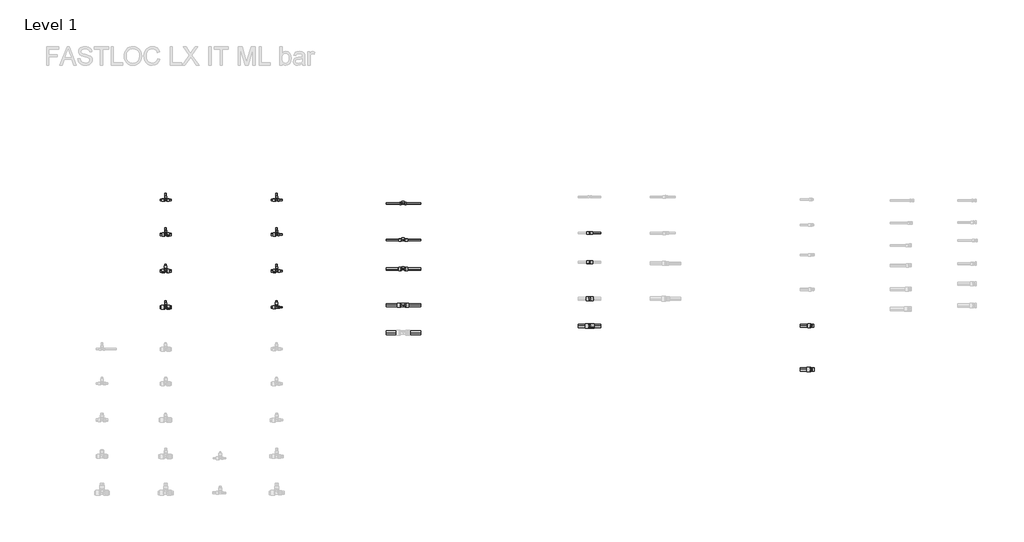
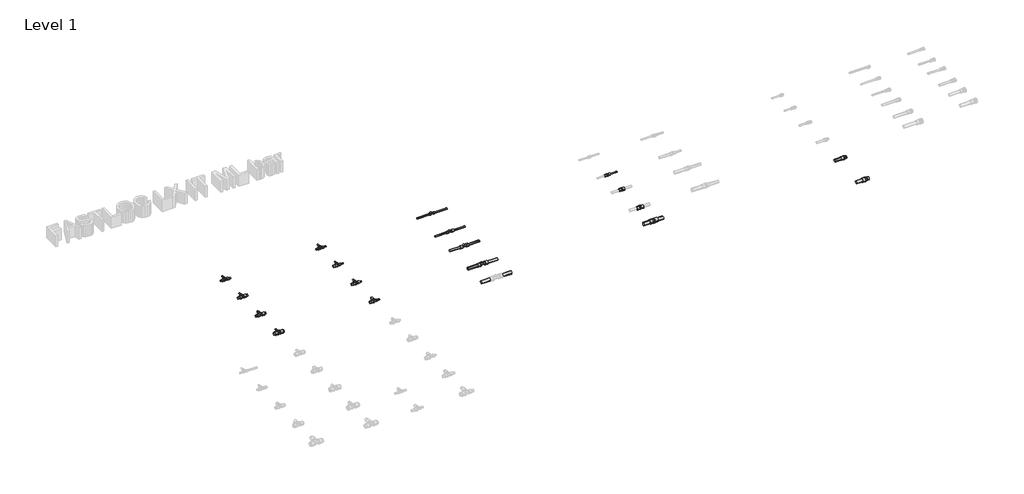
# One storey, part 20 of 78: 39 pipe segments, 18 pipe fittings.
"""IFC4 building model written with IfcOpenShell, lengths in millimetres."""

from ifc_helpers import new_model, si_unit, point, frame, frame_2d, origin, place, context, project, spatial, circle_curve, trimmed, segment, composite_curve, outline, extrude, transform, mapped, element, save
from components import pipe_fitting_91740978, pipe_fitting_5ae7c970, pipe_fitting_e97a97d3, pipe_fitting_d9a56b63, pipe_fitting_a094db19, pipe_fitting_8fb58d5f, pipe_fitting_db17a53a, pipe_fitting_3bea6388, pipe_fitting_e638986c, pipe_fitting_d92d4423, pipe_fitting_47d0521d, pipe_fitting_29c4d4eb, pipe_fitting_1d22680d, pipe_fitting_5e3c5755, pipe_fitting_f5731c1c, pipe_fitting_607ccf76, pipe_fitting_b01d00d0, pipe_fitting_e8fea69e

model = new_model("IFC4")

# Units and contexts
model_context = context("Model", 3, world=origin())
ifc_project = project(units=[si_unit("LENGTHUNIT", "METRE", prefix="MILLI")], contexts=[model_context])

# Site, building, storey
site = spatial("IfcSite", under=ifc_project)
building = spatial("IfcBuilding", under=site)
storey = spatial("IfcBuildingStorey", under=building, Name="Level 1", Elevation=0.0)

# Pipe fittings
placement = place(None, origin())
pipe_fitting_shape = pipe_fitting_91740978(model_context)
element("IfcPipeFitting", 1, ObjectType="FASTLOC_T-piece internal thread LX : FSL T thread LX IT", at=placement, inside=storey, context=model_context, shape_type="MappedRepresentation", body=[
    mapped(pipe_fitting_shape, transform((27436.609585, -19899.8272875, 0.0), x_axis=(1.0, 0.0, 0.0), y_axis=(0.0, 1.0, 0.0), z_axis=(0.0, 0.0, 1.0))),
])
pipe_fitting_2_shape = pipe_fitting_5ae7c970(model_context)
element("IfcPipeFitting", 2, ObjectType="FASTLOC_T-piece_LX : FSL T-Piece LX IT", at=placement, inside=storey, context=model_context, shape_type="MappedRepresentation", body=[
    mapped(pipe_fitting_2_shape, transform((24826.7498072, -18740.2405791, 0.0), x_axis=(1.0, 0.0, 0.0), y_axis=(0.0, 1.0, 0.0), z_axis=(0.0, 0.0, 1.0))),
])
pipe_fitting_3_shape = pipe_fitting_e97a97d3(model_context)
element("IfcPipeFitting", 3, ObjectType="FASTLOC_T-piece_LX : FSL T-Piece LX IT", at=placement, inside=storey, context=model_context, shape_type="MappedRepresentation", body=[
    mapped(pipe_fitting_3_shape, transform((24826.7498072, -19120.2405791, 0.0), x_axis=(1.0, 0.0, 0.0), y_axis=(0.0, 1.0, 0.0), z_axis=(0.0, 0.0, 1.0))),
])
pipe_fitting_4_shape = pipe_fitting_d9a56b63(model_context)
element("IfcPipeFitting", 4, ObjectType="FASTLOC_T-piece_LX : FSL T-Piece LX IT", at=placement, inside=storey, context=model_context, shape_type="MappedRepresentation", body=[
    mapped(pipe_fitting_4_shape, transform((24826.7498072, -19520.2405791, 0.0), x_axis=(1.0, 0.0, 0.0), y_axis=(0.0, 1.0, 0.0), z_axis=(0.0, 0.0, 1.0))),
])
pipe_fitting_5_shape = pipe_fitting_a094db19(model_context)
element("IfcPipeFitting", 5, ObjectType="FASTLOC_T-piece_LX : FSL T-Piece LX IT", at=placement, inside=storey, context=model_context, shape_type="MappedRepresentation", body=[
    mapped(pipe_fitting_5_shape, transform((24826.7498072, -19920.2405791, 0.0), x_axis=(1.0, 0.0, 0.0), y_axis=(0.0, 1.0, 0.0), z_axis=(0.0, 0.0, 1.0))),
])
pipe_fitting_6_shape = pipe_fitting_8fb58d5f(model_context)
element("IfcPipeFitting", 6, ObjectType="FASTLOC_T-piece_LX : FSL T-Piece LX IT", at=placement, inside=storey, context=model_context, shape_type="MappedRepresentation", body=[
    mapped(pipe_fitting_6_shape, transform((26046.7498072, -18740.2405791, 0.0), x_axis=(1.0, 0.0, 0.0), y_axis=(0.0, 1.0, 0.0), z_axis=(0.0, 0.0, 1.0))),
])
pipe_fitting_7_shape = pipe_fitting_db17a53a(model_context)
element("IfcPipeFitting", 7, ObjectType="FASTLOC_T-piece_LX : FSL T-Piece LX IT", at=placement, inside=storey, context=model_context, shape_type="MappedRepresentation", body=[
    mapped(pipe_fitting_7_shape, transform((26046.7498072, -19120.2405791, 0.0), x_axis=(1.0, 0.0, 0.0), y_axis=(0.0, 1.0, 0.0), z_axis=(0.0, 0.0, 1.0))),
])
pipe_fitting_8_shape = pipe_fitting_3bea6388(model_context)
element("IfcPipeFitting", 8, ObjectType="FASTLOC_T-piece_LX : FSL T-Piece LX IT", at=placement, inside=storey, context=model_context, shape_type="MappedRepresentation", body=[
    mapped(pipe_fitting_8_shape, transform((26046.7498072, -19520.2405791, 0.0), x_axis=(1.0, 0.0, 0.0), y_axis=(0.0, 1.0, 0.0), z_axis=(0.0, 0.0, 1.0))),
])
pipe_fitting_9_shape = pipe_fitting_e638986c(model_context)
element("IfcPipeFitting", 9, ObjectType="FASTLOC_T-piece_LX : FSL T-Piece LX IT", at=placement, inside=storey, context=model_context, shape_type="MappedRepresentation", body=[
    mapped(pipe_fitting_9_shape, transform((26046.7498072, -19920.2405791, 0.0), x_axis=(1.0, 0.0, 0.0), y_axis=(0.0, 1.0, 0.0), z_axis=(0.0, 0.0, 1.0))),
])
pipe_fitting_10_shape = pipe_fitting_d92d4423(model_context)
element("IfcPipeFitting", 10, ObjectType="FASTLOC_T-piece internal thread LX : FSL T thread LX IT", at=placement, inside=storey, context=model_context, shape_type="MappedRepresentation", body=[
    mapped(pipe_fitting_10_shape, transform((27436.609585, -18779.8272875, 0.0), x_axis=(1.0, 0.0, 0.0), y_axis=(0.0, 1.0, 0.0), z_axis=(0.0, 0.0, 1.0))),
])
pipe_fitting_11_shape = pipe_fitting_47d0521d(model_context)
element("IfcPipeFitting", 11, ObjectType="FASTLOC_T-piece internal thread LX : FSL T thread LX IT", at=placement, inside=storey, context=model_context, shape_type="MappedRepresentation", body=[
    mapped(pipe_fitting_11_shape, transform((27436.609585, -19179.8272875, 0.0), x_axis=(1.0, 0.0, 0.0), y_axis=(0.0, 1.0, 0.0), z_axis=(0.0, 0.0, 1.0))),
])
pipe_fitting_12_shape = pipe_fitting_29c4d4eb(model_context)
element("IfcPipeFitting", 12, ObjectType="FASTLOC_T-piece internal thread LX : FSL T thread LX IT", at=placement, inside=storey, context=model_context, shape_type="MappedRepresentation", body=[
    mapped(pipe_fitting_12_shape, transform((27436.609585, -19499.8272875, 0.0), x_axis=(1.0, 0.0, 0.0), y_axis=(0.0, 1.0, 0.0), z_axis=(0.0, 0.0, 1.0))),
])
pipe_fitting_13_shape = pipe_fitting_1d22680d(model_context)
element("IfcPipeFitting", 13, ObjectType="FASTLOC_Coupling equal LX : FSL C LX IT", at=placement, inside=storey, context=model_context, shape_type="MappedRepresentation", body=[
    mapped(pipe_fitting_13_shape, transform((29488.3790161, -19105.8821283, 0.0), x_axis=(1.0, 0.0, 0.0), y_axis=(0.0, 1.0, 0.0), z_axis=(0.0, 0.0, 1.0))),
])
pipe_fitting_14_shape = pipe_fitting_5e3c5755(model_context)
element("IfcPipeFitting", 14, ObjectType="FASTLOC_Coupling equal LX : FSL C LX IT", at=placement, inside=storey, context=model_context, shape_type="MappedRepresentation", body=[
    mapped(pipe_fitting_14_shape, transform((29488.3790161, -19425.8821283, 0.0), x_axis=(1.0, 0.0, 0.0), y_axis=(0.0, 1.0, 0.0), z_axis=(0.0, 0.0, 1.0))),
])
pipe_fitting_15_shape = pipe_fitting_f5731c1c(model_context)
element("IfcPipeFitting", 15, ObjectType="FASTLOC_Coupling equal LX : FSL C LX IT", at=placement, inside=storey, context=model_context, shape_type="MappedRepresentation", body=[
    mapped(pipe_fitting_15_shape, transform((29488.3790161, -19825.8821283, 0.0), x_axis=(1.0, 0.0, 0.0), y_axis=(0.0, 1.0, 0.0), z_axis=(0.0, 0.0, 1.0))),
])
pipe_fitting_16_shape = pipe_fitting_607ccf76(model_context)
element("IfcPipeFitting", 16, ObjectType="FASTLOC_Coupling equal LX : FSL C LX IT", at=placement, inside=storey, context=model_context, shape_type="MappedRepresentation", body=[
    mapped(pipe_fitting_16_shape, transform((29488.3790161, -20125.8821283, 0.0), x_axis=(1.0, 0.0, 0.0), y_axis=(0.0, 1.0, 0.0), z_axis=(0.0, 0.0, 1.0))),
])
pipe_fitting_17_shape = pipe_fitting_b01d00d0(model_context)
element("IfcPipeFitting", 17, ObjectType="FASTLOC_Adapter_LX, with external thread : FSL A C external IT", at=placement, inside=storey, context=model_context, shape_type="MappedRepresentation", body=[
    mapped(pipe_fitting_17_shape, transform((31926.8953131, -20124.2068389, 0.0), x_axis=(1.0, 0.0, 0.0), y_axis=(0.0, 1.0, 0.0), z_axis=(0.0, 0.0, 1.0))),
])
pipe_fitting_18_shape = pipe_fitting_e8fea69e(model_context)
element("IfcPipeFitting", 18, ObjectType="FASTLOC_Adapter_LX, with external thread : FSL A C external IT", at=placement, inside=storey, context=model_context, shape_type="MappedRepresentation", body=[
    mapped(pipe_fitting_18_shape, transform((31926.8953131, -20604.2068389, 0.0), x_axis=(1.0, 0.0, 0.0), y_axis=(0.0, 1.0, 0.0), z_axis=(0.0, 0.0, 1.0))),
])

# Pipe segments
element("IfcPipeSegment", 19, ObjectType="FASTLOC LX ML IT bar", at=placement, inside=storey, context=model_context, shape_type="SweptSolid", body=[
    extrude(outline(composite_curve([segment(trimmed(circle_curve(frame_2d((-18740.2405791, 0.0)), 8.0), [point((-18748.2405791, 0.0))], [point((-18740.2405791, 8.0))], False, "CARTESIAN"), True, "CONTINUOUS"), segment(trimmed(circle_curve(frame_2d((-18740.2405791, 0.0)), 8.0), [point((-18740.2405791, 8.0))], [point((-18732.2405791, 0.0))], False, "CARTESIAN"), True, "CONTINUOUS"), segment(trimmed(circle_curve(frame_2d((-18740.2405791, 0.0)), 8.0), [point((-18732.2405791, 0.0))], [point((-18740.2405791, -8.0))], False, "CARTESIAN"), True, "CONTINUOUS"), segment(trimmed(circle_curve(frame_2d((-18740.2405791, 0.0)), 8.0), [point((-18740.2405791, -8.0))], [point((-18748.2405791, 0.0))], False, "CARTESIAN"), True, "CONTINUOUS")], self_intersect=False)), frame((24842.0498072, 0.0, 0.0), z_axis=(1.0, 0.0, 0.0), x_axis=(0.0, 1.0, 0.0)), (0.0, 0.0, 1.0), 46.7),
])
element("IfcPipeSegment", 20, ObjectType="FASTLOC LX ML IT bar", at=placement, inside=storey, context=model_context, shape_type="SweptSolid", body=[
    extrude(outline(composite_curve([segment(trimmed(circle_curve(frame_2d((-18740.2405791, 0.0)), 8.0), [point((-18732.2405791, 0.0))], [point((-18740.2405791, -8.0))], False, "CARTESIAN"), True, "CONTINUOUS"), segment(trimmed(circle_curve(frame_2d((-18740.2405791, 0.0)), 8.0), [point((-18740.2405791, -8.0))], [point((-18748.2405791, 0.0))], False, "CARTESIAN"), True, "CONTINUOUS"), segment(trimmed(circle_curve(frame_2d((-18740.2405791, 0.0)), 8.0), [point((-18748.2405791, 0.0))], [point((-18740.2405791, 8.0))], False, "CARTESIAN"), True, "CONTINUOUS"), segment(trimmed(circle_curve(frame_2d((-18740.2405791, 0.0)), 8.0), [point((-18740.2405791, 8.0))], [point((-18732.2405791, 0.0))], False, "CARTESIAN"), True, "CONTINUOUS")], self_intersect=False)), frame((24764.7498072, 0.0, 0.0), z_axis=(1.0, 0.0, 0.0), x_axis=(0.0, 1.0, 0.0)), (0.0, 0.0, 1.0), 46.7),
])
element("IfcPipeSegment", 21, ObjectType="FASTLOC LX ML IT bar", at=placement, inside=storey, context=model_context, shape_type="SweptSolid", body=[
    extrude(outline(composite_curve([segment(trimmed(circle_curve(frame_2d((0.0, 24826.7498072)), 8.0), [point((0.0, 24834.7498072))], [point((8.0, 24826.7498072))], False, "CARTESIAN"), True, "CONTINUOUS"), segment(trimmed(circle_curve(frame_2d((0.0, 24826.7498072)), 8.0), [point((8.0, 24826.7498072))], [point((0.0, 24818.7498072))], False, "CARTESIAN"), True, "CONTINUOUS"), segment(trimmed(circle_curve(frame_2d((0.0, 24826.7498072)), 8.0), [point((0.0, 24818.7498072))], [point((-8.0, 24826.7498072))], False, "CARTESIAN"), True, "CONTINUOUS"), segment(trimmed(circle_curve(frame_2d((0.0, 24826.7498072)), 8.0), [point((-8.0, 24826.7498072))], [point((0.0, 24834.7498072))], False, "CARTESIAN"), True, "CONTINUOUS")], self_intersect=False)), frame((0.0, -18713.9405791, 0.0), z_axis=(0.0, 1.0, 0.0), x_axis=(0.0, 0.0, 1.0)), (0.0, 0.0, 1.0), 46.0),
])
element("IfcPipeSegment", 22, ObjectType="FASTLOC LX ML IT bar", at=placement, inside=storey, context=model_context, shape_type="SweptSolid", body=[
    extrude(outline(composite_curve([segment(trimmed(circle_curve(frame_2d((-19120.2405791, 0.0)), 12.5), [point((-19132.7405791, 0.0))], [point((-19120.2405791, 12.5))], False, "CARTESIAN"), True, "CONTINUOUS"), segment(trimmed(circle_curve(frame_2d((-19120.2405791, 0.0)), 12.5), [point((-19120.2405791, 12.5))], [point((-19107.7405791, 0.0))], False, "CARTESIAN"), True, "CONTINUOUS"), segment(trimmed(circle_curve(frame_2d((-19120.2405791, 0.0)), 12.5), [point((-19107.7405791, 0.0))], [point((-19120.2405791, -12.5))], False, "CARTESIAN"), True, "CONTINUOUS"), segment(trimmed(circle_curve(frame_2d((-19120.2405791, 0.0)), 12.5), [point((-19120.2405791, -12.5))], [point((-19132.7405791, 0.0))], False, "CARTESIAN"), True, "CONTINUOUS")], self_intersect=False)), frame((24842.9498072, 0.0, 0.0), z_axis=(1.0, 0.0, 0.0), x_axis=(0.0, 1.0, 0.0)), (0.0, 0.0, 1.0), 45.8),
])
element("IfcPipeSegment", 23, ObjectType="FASTLOC LX ML IT bar", at=placement, inside=storey, context=model_context, shape_type="SweptSolid", body=[
    extrude(outline(composite_curve([segment(trimmed(circle_curve(frame_2d((-19120.2405791, 0.0)), 12.5), [point((-19107.7405791, 0.0))], [point((-19120.2405791, -12.5))], False, "CARTESIAN"), True, "CONTINUOUS"), segment(trimmed(circle_curve(frame_2d((-19120.2405791, 0.0)), 12.5), [point((-19120.2405791, -12.5))], [point((-19132.7405791, 0.0))], False, "CARTESIAN"), True, "CONTINUOUS"), segment(trimmed(circle_curve(frame_2d((-19120.2405791, 0.0)), 12.5), [point((-19132.7405791, 0.0))], [point((-19120.2405791, 12.5))], False, "CARTESIAN"), True, "CONTINUOUS"), segment(trimmed(circle_curve(frame_2d((-19120.2405791, 0.0)), 12.5), [point((-19120.2405791, 12.5))], [point((-19107.7405791, 0.0))], False, "CARTESIAN"), True, "CONTINUOUS")], self_intersect=False)), frame((24764.7498072, 0.0, 0.0), z_axis=(1.0, 0.0, 0.0), x_axis=(0.0, 1.0, 0.0)), (0.0, 0.0, 1.0), 45.8),
])
element("IfcPipeSegment", 24, ObjectType="FASTLOC LX ML IT bar", at=placement, inside=storey, context=model_context, shape_type="SweptSolid", body=[
    extrude(outline(composite_curve([segment(trimmed(circle_curve(frame_2d((0.0, 24826.7498072)), 8.0), [point((0.0, 24834.7498072))], [point((8.0, 24826.7498072))], False, "CARTESIAN"), True, "CONTINUOUS"), segment(trimmed(circle_curve(frame_2d((0.0, 24826.7498072)), 8.0), [point((8.0, 24826.7498072))], [point((0.0, 24818.7498072))], False, "CARTESIAN"), True, "CONTINUOUS"), segment(trimmed(circle_curve(frame_2d((0.0, 24826.7498072)), 8.0), [point((0.0, 24818.7498072))], [point((-8.0, 24826.7498072))], False, "CARTESIAN"), True, "CONTINUOUS"), segment(trimmed(circle_curve(frame_2d((0.0, 24826.7498072)), 8.0), [point((-8.0, 24826.7498072))], [point((0.0, 24834.7498072))], False, "CARTESIAN"), True, "CONTINUOUS")], self_intersect=False)), frame((0.0, -19091.2405791, 0.0), z_axis=(0.0, 1.0, 0.0), x_axis=(0.0, 0.0, 1.0)), (0.0, 0.0, 1.0), 43.3),
])
element("IfcPipeSegment", 25, ObjectType="FASTLOC LX ML IT bar", at=placement, inside=storey, context=model_context, shape_type="SweptSolid", body=[
    extrude(outline(composite_curve([segment(trimmed(circle_curve(frame_2d((-19520.2405791, 0.0)), 12.5), [point((-19532.7405791, 0.0))], [point((-19520.2405791, 12.5))], False, "CARTESIAN"), True, "CONTINUOUS"), segment(trimmed(circle_curve(frame_2d((-19520.2405791, 0.0)), 12.5), [point((-19520.2405791, 12.5))], [point((-19507.7405791, 0.0))], False, "CARTESIAN"), True, "CONTINUOUS"), segment(trimmed(circle_curve(frame_2d((-19520.2405791, 0.0)), 12.5), [point((-19507.7405791, 0.0))], [point((-19520.2405791, -12.5))], False, "CARTESIAN"), True, "CONTINUOUS"), segment(trimmed(circle_curve(frame_2d((-19520.2405791, 0.0)), 12.5), [point((-19520.2405791, -12.5))], [point((-19532.7405791, 0.0))], False, "CARTESIAN"), True, "CONTINUOUS")], self_intersect=False)), frame((24844.8498072, 0.0, 0.0), z_axis=(1.0, 0.0, 0.0), x_axis=(0.0, 1.0, 0.0)), (0.0, 0.0, 1.0), 43.9),
])
element("IfcPipeSegment", 26, ObjectType="FASTLOC LX ML IT bar", at=placement, inside=storey, context=model_context, shape_type="SweptSolid", body=[
    extrude(outline(composite_curve([segment(trimmed(circle_curve(frame_2d((-19520.2405791, 0.0)), 12.5), [point((-19507.7405791, 0.0))], [point((-19520.2405791, -12.5))], False, "CARTESIAN"), True, "CONTINUOUS"), segment(trimmed(circle_curve(frame_2d((-19520.2405791, 0.0)), 12.5), [point((-19520.2405791, -12.5))], [point((-19532.7405791, 0.0))], False, "CARTESIAN"), True, "CONTINUOUS"), segment(trimmed(circle_curve(frame_2d((-19520.2405791, 0.0)), 12.5), [point((-19532.7405791, 0.0))], [point((-19520.2405791, 12.5))], False, "CARTESIAN"), True, "CONTINUOUS"), segment(trimmed(circle_curve(frame_2d((-19520.2405791, 0.0)), 12.5), [point((-19520.2405791, 12.5))], [point((-19507.7405791, 0.0))], False, "CARTESIAN"), True, "CONTINUOUS")], self_intersect=False)), frame((24764.7498072, 0.0, 0.0), z_axis=(1.0, 0.0, 0.0), x_axis=(0.0, 1.0, 0.0)), (0.0, 0.0, 1.0), 43.9),
])
element("IfcPipeSegment", 27, ObjectType="FASTLOC LX ML IT bar", at=placement, inside=storey, context=model_context, shape_type="SweptSolid", body=[
    extrude(outline(composite_curve([segment(trimmed(circle_curve(frame_2d((0.0, 24826.7498072)), 8.0), [point((0.0, 24834.7498072))], [point((8.0, 24826.7498072))], False, "CARTESIAN"), True, "CONTINUOUS"), segment(trimmed(circle_curve(frame_2d((0.0, 24826.7498072)), 8.0), [point((8.0, 24826.7498072))], [point((0.0, 24818.7498072))], False, "CARTESIAN"), True, "CONTINUOUS"), segment(trimmed(circle_curve(frame_2d((0.0, 24826.7498072)), 8.0), [point((0.0, 24818.7498072))], [point((-8.0, 24826.7498072))], False, "CARTESIAN"), True, "CONTINUOUS"), segment(trimmed(circle_curve(frame_2d((0.0, 24826.7498072)), 8.0), [point((-8.0, 24826.7498072))], [point((0.0, 24834.7498072))], False, "CARTESIAN"), True, "CONTINUOUS")], self_intersect=False)), frame((0.0, -19491.0405791, 0.0), z_axis=(0.0, 1.0, 0.0), x_axis=(0.0, 0.0, 1.0)), (0.0, 0.0, 1.0), 43.1),
])
element("IfcPipeSegment", 28, ObjectType="FASTLOC LX ML IT bar", at=placement, inside=storey, context=model_context, shape_type="SweptSolid", body=[
    extrude(outline(composite_curve([segment(trimmed(circle_curve(frame_2d((-19920.2405791, 0.0)), 16.0), [point((-19936.2405791, 0.0))], [point((-19920.2405791, 16.0))], False, "CARTESIAN"), True, "CONTINUOUS"), segment(trimmed(circle_curve(frame_2d((-19920.2405791, 0.0)), 16.0), [point((-19920.2405791, 16.0))], [point((-19904.2405791, 0.0))], False, "CARTESIAN"), True, "CONTINUOUS"), segment(trimmed(circle_curve(frame_2d((-19920.2405791, 0.0)), 16.0), [point((-19904.2405791, 0.0))], [point((-19920.2405791, -16.0))], False, "CARTESIAN"), True, "CONTINUOUS"), segment(trimmed(circle_curve(frame_2d((-19920.2405791, 0.0)), 16.0), [point((-19920.2405791, -16.0))], [point((-19936.2405791, 0.0))], False, "CARTESIAN"), True, "CONTINUOUS")], self_intersect=False)), frame((24845.0498072, 0.0, 0.0), z_axis=(1.0, 0.0, 0.0), x_axis=(0.0, 1.0, 0.0)), (0.0, 0.0, 1.0), 43.7),
])
element("IfcPipeSegment", 29, ObjectType="FASTLOC LX ML IT bar", at=placement, inside=storey, context=model_context, shape_type="SweptSolid", body=[
    extrude(outline(composite_curve([segment(trimmed(circle_curve(frame_2d((-19920.2405791, 0.0)), 16.0), [point((-19904.2405791, 0.0))], [point((-19920.2405791, -16.0))], False, "CARTESIAN"), True, "CONTINUOUS"), segment(trimmed(circle_curve(frame_2d((-19920.2405791, 0.0)), 16.0), [point((-19920.2405791, -16.0))], [point((-19936.2405791, 0.0))], False, "CARTESIAN"), True, "CONTINUOUS"), segment(trimmed(circle_curve(frame_2d((-19920.2405791, 0.0)), 16.0), [point((-19936.2405791, 0.0))], [point((-19920.2405791, 16.0))], False, "CARTESIAN"), True, "CONTINUOUS"), segment(trimmed(circle_curve(frame_2d((-19920.2405791, 0.0)), 16.0), [point((-19920.2405791, 16.0))], [point((-19904.2405791, 0.0))], False, "CARTESIAN"), True, "CONTINUOUS")], self_intersect=False)), frame((24764.7498072, 0.0, 0.0), z_axis=(1.0, 0.0, 0.0), x_axis=(0.0, 1.0, 0.0)), (0.0, 0.0, 1.0), 43.7),
])
element("IfcPipeSegment", 30, ObjectType="FASTLOC LX ML IT bar", at=placement, inside=storey, context=model_context, shape_type="SweptSolid", body=[
    extrude(outline(composite_curve([segment(trimmed(circle_curve(frame_2d((0.0, 24826.7498072)), 8.0), [point((0.0, 24834.7498072))], [point((8.0, 24826.7498072))], False, "CARTESIAN"), True, "CONTINUOUS"), segment(trimmed(circle_curve(frame_2d((0.0, 24826.7498072)), 8.0), [point((8.0, 24826.7498072))], [point((0.0, 24818.7498072))], False, "CARTESIAN"), True, "CONTINUOUS"), segment(trimmed(circle_curve(frame_2d((0.0, 24826.7498072)), 8.0), [point((0.0, 24818.7498072))], [point((-8.0, 24826.7498072))], False, "CARTESIAN"), True, "CONTINUOUS"), segment(trimmed(circle_curve(frame_2d((0.0, 24826.7498072)), 8.0), [point((-8.0, 24826.7498072))], [point((0.0, 24834.7498072))], False, "CARTESIAN"), True, "CONTINUOUS")], self_intersect=False)), frame((0.0, -19886.3405791, 0.0), z_axis=(0.0, 1.0, 0.0), x_axis=(0.0, 0.0, 1.0)), (0.0, 0.0, 1.0), 38.4),
])
element("IfcPipeSegment", 31, ObjectType="FASTLOC LX ML IT bar", at=placement, inside=storey, context=model_context, shape_type="SweptSolid", body=[
    extrude(outline(composite_curve([segment(trimmed(circle_curve(frame_2d((-18740.2405791, 0.0)), 8.0), [point((-18748.2405791, 0.0))], [point((-18740.2405791, 8.0))], False, "CARTESIAN"), True, "CONTINUOUS"), segment(trimmed(circle_curve(frame_2d((-18740.2405791, 0.0)), 8.0), [point((-18740.2405791, 8.0))], [point((-18732.2405791, 0.0))], False, "CARTESIAN"), True, "CONTINUOUS"), segment(trimmed(circle_curve(frame_2d((-18740.2405791, 0.0)), 8.0), [point((-18732.2405791, 0.0))], [point((-18740.2405791, -8.0))], False, "CARTESIAN"), True, "CONTINUOUS"), segment(trimmed(circle_curve(frame_2d((-18740.2405791, 0.0)), 8.0), [point((-18740.2405791, -8.0))], [point((-18748.2405791, 0.0))], False, "CARTESIAN"), True, "CONTINUOUS")], self_intersect=False)), frame((26061.8498072, 0.0, 0.0), z_axis=(1.0, 0.0, 0.0), x_axis=(0.0, 1.0, 0.0)), (0.0, 0.0, 1.0), 46.9),
])
element("IfcPipeSegment", 32, ObjectType="FASTLOC LX ML IT bar", at=placement, inside=storey, context=model_context, shape_type="SweptSolid", body=[
    extrude(outline(composite_curve([segment(trimmed(circle_curve(frame_2d((-18740.2405791, 0.0)), 8.0), [point((-18732.2405791, 0.0))], [point((-18740.2405791, -8.0))], False, "CARTESIAN"), True, "CONTINUOUS"), segment(trimmed(circle_curve(frame_2d((-18740.2405791, 0.0)), 8.0), [point((-18740.2405791, -8.0))], [point((-18748.2405791, 0.0))], False, "CARTESIAN"), True, "CONTINUOUS"), segment(trimmed(circle_curve(frame_2d((-18740.2405791, 0.0)), 8.0), [point((-18748.2405791, 0.0))], [point((-18740.2405791, 8.0))], False, "CARTESIAN"), True, "CONTINUOUS"), segment(trimmed(circle_curve(frame_2d((-18740.2405791, 0.0)), 8.0), [point((-18740.2405791, 8.0))], [point((-18732.2405791, 0.0))], False, "CARTESIAN"), True, "CONTINUOUS")], self_intersect=False)), frame((25984.7498072, 0.0, 0.0), z_axis=(1.0, 0.0, 0.0), x_axis=(0.0, 1.0, 0.0)), (0.0, 0.0, 1.0), 46.5),
])
element("IfcPipeSegment", 33, ObjectType="FASTLOC LX ML IT bar", at=placement, inside=storey, context=model_context, shape_type="SweptSolid", body=[
    extrude(outline(composite_curve([segment(trimmed(circle_curve(frame_2d((0.0, 26046.7498072)), 8.0), [point((0.0, 26054.7498072))], [point((8.0, 26046.7498072))], False, "CARTESIAN"), True, "CONTINUOUS"), segment(trimmed(circle_curve(frame_2d((0.0, 26046.7498072)), 8.0), [point((8.0, 26046.7498072))], [point((0.0, 26038.7498072))], False, "CARTESIAN"), True, "CONTINUOUS"), segment(trimmed(circle_curve(frame_2d((0.0, 26046.7498072)), 8.0), [point((0.0, 26038.7498072))], [point((-8.0, 26046.7498072))], False, "CARTESIAN"), True, "CONTINUOUS"), segment(trimmed(circle_curve(frame_2d((0.0, 26046.7498072)), 8.0), [point((-8.0, 26046.7498072))], [point((0.0, 26054.7498072))], False, "CARTESIAN"), True, "CONTINUOUS")], self_intersect=False)), frame((0.0, -18713.8405791, 0.0), z_axis=(0.0, 1.0, 0.0), x_axis=(0.0, 0.0, 1.0)), (0.0, 0.0, 1.0), 45.9),
])
element("IfcPipeSegment", 34, ObjectType="FASTLOC LX ML IT bar", at=placement, inside=storey, context=model_context, shape_type="SweptSolid", body=[
    extrude(outline(composite_curve([segment(trimmed(circle_curve(frame_2d((-19120.2405791, 0.0)), 8.0), [point((-19128.2405791, 0.0))], [point((-19120.2405791, 8.0))], False, "CARTESIAN"), True, "CONTINUOUS"), segment(trimmed(circle_curve(frame_2d((-19120.2405791, 0.0)), 8.0), [point((-19120.2405791, 8.0))], [point((-19112.2405791, 0.0))], False, "CARTESIAN"), True, "CONTINUOUS"), segment(trimmed(circle_curve(frame_2d((-19120.2405791, 0.0)), 8.0), [point((-19112.2405791, 0.0))], [point((-19120.2405791, -8.0))], False, "CARTESIAN"), True, "CONTINUOUS"), segment(trimmed(circle_curve(frame_2d((-19120.2405791, 0.0)), 8.0), [point((-19120.2405791, -8.0))], [point((-19128.2405791, 0.0))], False, "CARTESIAN"), True, "CONTINUOUS")], self_intersect=False)), frame((26061.8498072, 0.0, 0.0), z_axis=(1.0, 0.0, 0.0), x_axis=(0.0, 1.0, 0.0)), (0.0, 0.0, 1.0), 46.9),
])
element("IfcPipeSegment", 35, ObjectType="FASTLOC LX ML IT bar", at=placement, inside=storey, context=model_context, shape_type="SweptSolid", body=[
    extrude(outline(composite_curve([segment(trimmed(circle_curve(frame_2d((-19120.2405791, 0.0)), 12.5), [point((-19107.7405791, 0.0))], [point((-19120.2405791, -12.5))], False, "CARTESIAN"), True, "CONTINUOUS"), segment(trimmed(circle_curve(frame_2d((-19120.2405791, 0.0)), 12.5), [point((-19120.2405791, -12.5))], [point((-19132.7405791, 0.0))], False, "CARTESIAN"), True, "CONTINUOUS"), segment(trimmed(circle_curve(frame_2d((-19120.2405791, 0.0)), 12.5), [point((-19132.7405791, 0.0))], [point((-19120.2405791, 12.5))], False, "CARTESIAN"), True, "CONTINUOUS"), segment(trimmed(circle_curve(frame_2d((-19120.2405791, 0.0)), 12.5), [point((-19120.2405791, 12.5))], [point((-19107.7405791, 0.0))], False, "CARTESIAN"), True, "CONTINUOUS")], self_intersect=False)), frame((25984.7498072, 0.0, 0.0), z_axis=(1.0, 0.0, 0.0), x_axis=(0.0, 1.0, 0.0)), (0.0, 0.0, 1.0), 45.6),
])
element("IfcPipeSegment", 36, ObjectType="FASTLOC LX ML IT bar", at=placement, inside=storey, context=model_context, shape_type="SweptSolid", body=[
    extrude(outline(composite_curve([segment(trimmed(circle_curve(frame_2d((0.0, 26046.7498072)), 8.0), [point((0.0, 26054.7498072))], [point((8.0, 26046.7498072))], False, "CARTESIAN"), True, "CONTINUOUS"), segment(trimmed(circle_curve(frame_2d((0.0, 26046.7498072)), 8.0), [point((8.0, 26046.7498072))], [point((0.0, 26038.7498072))], False, "CARTESIAN"), True, "CONTINUOUS"), segment(trimmed(circle_curve(frame_2d((0.0, 26046.7498072)), 8.0), [point((0.0, 26038.7498072))], [point((-8.0, 26046.7498072))], False, "CARTESIAN"), True, "CONTINUOUS"), segment(trimmed(circle_curve(frame_2d((0.0, 26046.7498072)), 8.0), [point((-8.0, 26046.7498072))], [point((0.0, 26054.7498072))], False, "CARTESIAN"), True, "CONTINUOUS")], self_intersect=False)), frame((0.0, -19091.1405791, 0.0), z_axis=(0.0, 1.0, 0.0), x_axis=(0.0, 0.0, 1.0)), (0.0, 0.0, 1.0), 43.2),
])
element("IfcPipeSegment", 37, ObjectType="FASTLOC LX ML IT bar", at=placement, inside=storey, context=model_context, shape_type="SweptSolid", body=[
    extrude(outline(composite_curve([segment(trimmed(circle_curve(frame_2d((-19520.2405791, 0.0)), 8.0), [point((-19528.2405791, 0.0))], [point((-19520.2405791, 8.0))], False, "CARTESIAN"), True, "CONTINUOUS"), segment(trimmed(circle_curve(frame_2d((-19520.2405791, 0.0)), 8.0), [point((-19520.2405791, 8.0))], [point((-19512.2405791, 0.0))], False, "CARTESIAN"), True, "CONTINUOUS"), segment(trimmed(circle_curve(frame_2d((-19520.2405791, 0.0)), 8.0), [point((-19512.2405791, 0.0))], [point((-19520.2405791, -8.0))], False, "CARTESIAN"), True, "CONTINUOUS"), segment(trimmed(circle_curve(frame_2d((-19520.2405791, 0.0)), 8.0), [point((-19520.2405791, -8.0))], [point((-19528.2405791, 0.0))], False, "CARTESIAN"), True, "CONTINUOUS")], self_intersect=False)), frame((26062.2498072, 0.0, 0.0), z_axis=(1.0, 0.0, 0.0), x_axis=(0.0, 1.0, 0.0)), (0.0, 0.0, 1.0), 46.5),
])
element("IfcPipeSegment", 38, ObjectType="FASTLOC LX ML IT bar", at=placement, inside=storey, context=model_context, shape_type="SweptSolid", body=[
    extrude(outline(composite_curve([segment(trimmed(circle_curve(frame_2d((-19520.2405791, 0.0)), 12.5), [point((-19507.7405791, 0.0))], [point((-19520.2405791, -12.5))], False, "CARTESIAN"), True, "CONTINUOUS"), segment(trimmed(circle_curve(frame_2d((-19520.2405791, 0.0)), 12.5), [point((-19520.2405791, -12.5))], [point((-19532.7405791, 0.0))], False, "CARTESIAN"), True, "CONTINUOUS"), segment(trimmed(circle_curve(frame_2d((-19520.2405791, 0.0)), 12.5), [point((-19532.7405791, 0.0))], [point((-19520.2405791, 12.5))], False, "CARTESIAN"), True, "CONTINUOUS"), segment(trimmed(circle_curve(frame_2d((-19520.2405791, 0.0)), 12.5), [point((-19520.2405791, 12.5))], [point((-19507.7405791, 0.0))], False, "CARTESIAN"), True, "CONTINUOUS")], self_intersect=False)), frame((25984.7498072, 0.0, 0.0), z_axis=(1.0, 0.0, 0.0), x_axis=(0.0, 1.0, 0.0)), (0.0, 0.0, 1.0), 45.6),
])
element("IfcPipeSegment", 39, ObjectType="FASTLOC LX ML IT bar", at=placement, inside=storey, context=model_context, shape_type="SweptSolid", body=[
    extrude(outline(composite_curve([segment(trimmed(circle_curve(frame_2d((0.0, 26046.7498072)), 8.0), [point((0.0, 26054.7498072))], [point((8.0, 26046.7498072))], False, "CARTESIAN"), True, "CONTINUOUS"), segment(trimmed(circle_curve(frame_2d((0.0, 26046.7498072)), 8.0), [point((8.0, 26046.7498072))], [point((0.0, 26038.7498072))], False, "CARTESIAN"), True, "CONTINUOUS"), segment(trimmed(circle_curve(frame_2d((0.0, 26046.7498072)), 8.0), [point((0.0, 26038.7498072))], [point((-8.0, 26046.7498072))], False, "CARTESIAN"), True, "CONTINUOUS"), segment(trimmed(circle_curve(frame_2d((0.0, 26046.7498072)), 8.0), [point((-8.0, 26046.7498072))], [point((0.0, 26054.7498072))], False, "CARTESIAN"), True, "CONTINUOUS")], self_intersect=False)), frame((0.0, -19491.1405791, 0.0), z_axis=(0.0, 1.0, 0.0), x_axis=(0.0, 0.0, 1.0)), (0.0, 0.0, 1.0), 43.2),
])
element("IfcPipeSegment", 40, ObjectType="FASTLOC LX ML IT bar", at=placement, inside=storey, context=model_context, shape_type="SweptSolid", body=[
    extrude(outline(composite_curve([segment(trimmed(circle_curve(frame_2d((-19920.2405791, 0.0)), 8.0), [point((-19928.2405791, 0.0))], [point((-19920.2405791, 8.0))], False, "CARTESIAN"), True, "CONTINUOUS"), segment(trimmed(circle_curve(frame_2d((-19920.2405791, 0.0)), 8.0), [point((-19920.2405791, 8.0))], [point((-19912.2405791, 0.0))], False, "CARTESIAN"), True, "CONTINUOUS"), segment(trimmed(circle_curve(frame_2d((-19920.2405791, 0.0)), 8.0), [point((-19912.2405791, 0.0))], [point((-19920.2405791, -8.0))], False, "CARTESIAN"), True, "CONTINUOUS"), segment(trimmed(circle_curve(frame_2d((-19920.2405791, 0.0)), 8.0), [point((-19920.2405791, -8.0))], [point((-19928.2405791, 0.0))], False, "CARTESIAN"), True, "CONTINUOUS")], self_intersect=False)), frame((26063.7498072, 0.0, 0.0), z_axis=(1.0, 0.0, 0.0), x_axis=(0.0, 1.0, 0.0)), (0.0, 0.0, 1.0), 45.0),
])
element("IfcPipeSegment", 41, ObjectType="FASTLOC LX ML IT bar", at=placement, inside=storey, context=model_context, shape_type="SweptSolid", body=[
    extrude(outline(composite_curve([segment(trimmed(circle_curve(frame_2d((-19920.2405791, 0.0)), 12.5), [point((-19907.7405791, 0.0))], [point((-19920.2405791, -12.5))], False, "CARTESIAN"), True, "CONTINUOUS"), segment(trimmed(circle_curve(frame_2d((-19920.2405791, 0.0)), 12.5), [point((-19920.2405791, -12.5))], [point((-19932.7405791, 0.0))], False, "CARTESIAN"), True, "CONTINUOUS"), segment(trimmed(circle_curve(frame_2d((-19920.2405791, 0.0)), 12.5), [point((-19932.7405791, 0.0))], [point((-19920.2405791, 12.5))], False, "CARTESIAN"), True, "CONTINUOUS"), segment(trimmed(circle_curve(frame_2d((-19920.2405791, 0.0)), 12.5), [point((-19920.2405791, 12.5))], [point((-19907.7405791, 0.0))], False, "CARTESIAN"), True, "CONTINUOUS")], self_intersect=False)), frame((25984.7498072, 0.0, 0.0), z_axis=(1.0, 0.0, 0.0), x_axis=(0.0, 1.0, 0.0)), (0.0, 0.0, 1.0), 43.7),
])
element("IfcPipeSegment", 42, ObjectType="FASTLOC LX ML IT bar", at=placement, inside=storey, context=model_context, shape_type="SweptSolid", body=[
    extrude(outline(composite_curve([segment(trimmed(circle_curve(frame_2d((0.0, 26046.7498072)), 8.0), [point((0.0, 26054.7498072))], [point((8.0, 26046.7498072))], False, "CARTESIAN"), True, "CONTINUOUS"), segment(trimmed(circle_curve(frame_2d((0.0, 26046.7498072)), 8.0), [point((8.0, 26046.7498072))], [point((0.0, 26038.7498072))], False, "CARTESIAN"), True, "CONTINUOUS"), segment(trimmed(circle_curve(frame_2d((0.0, 26046.7498072)), 8.0), [point((0.0, 26038.7498072))], [point((-8.0, 26046.7498072))], False, "CARTESIAN"), True, "CONTINUOUS"), segment(trimmed(circle_curve(frame_2d((0.0, 26046.7498072)), 8.0), [point((-8.0, 26046.7498072))], [point((0.0, 26054.7498072))], False, "CARTESIAN"), True, "CONTINUOUS")], self_intersect=False)), frame((0.0, -19891.0405791, 0.0), z_axis=(0.0, 1.0, 0.0), x_axis=(0.0, 0.0, 1.0)), (0.0, 0.0, 1.0), 43.1),
])
element("IfcPipeSegment", 43, ObjectType="FASTLOC LX ML IT bar", at=placement, inside=storey, context=model_context, shape_type="SweptSolid", body=[
    extrude(outline(composite_curve([segment(trimmed(circle_curve(frame_2d((-18779.8272875, 0.0)), 8.0), [point((-18787.8272875, 0.0))], [point((-18779.8272875, 8.0))], False, "CARTESIAN"), True, "CONTINUOUS"), segment(trimmed(circle_curve(frame_2d((-18779.8272875, 0.0)), 8.0), [point((-18779.8272875, 8.0))], [point((-18771.8272875, 0.0))], False, "CARTESIAN"), True, "CONTINUOUS"), segment(trimmed(circle_curve(frame_2d((-18779.8272875, 0.0)), 8.0), [point((-18771.8272875, 0.0))], [point((-18779.8272875, -8.0))], False, "CARTESIAN"), True, "CONTINUOUS"), segment(trimmed(circle_curve(frame_2d((-18779.8272875, 0.0)), 8.0), [point((-18779.8272875, -8.0))], [point((-18787.8272875, 0.0))], False, "CARTESIAN"), True, "CONTINUOUS")], self_intersect=False)), frame((27458.609585, 0.0, 0.0), z_axis=(1.0, 0.0, 0.0), x_axis=(0.0, 1.0, 0.0)), (0.0, 0.0, 1.0), 170.0),
])
element("IfcPipeSegment", 44, ObjectType="FASTLOC LX ML IT bar", at=placement, inside=storey, context=model_context, shape_type="SweptSolid", body=[
    extrude(outline(composite_curve([segment(trimmed(circle_curve(frame_2d((-18779.8272875, 0.0)), 8.0), [point((-18771.8272875, 0.0))], [point((-18779.8272875, -8.0))], False, "CARTESIAN"), True, "CONTINUOUS"), segment(trimmed(circle_curve(frame_2d((-18779.8272875, 0.0)), 8.0), [point((-18779.8272875, -8.0))], [point((-18787.8272875, 0.0))], False, "CARTESIAN"), True, "CONTINUOUS"), segment(trimmed(circle_curve(frame_2d((-18779.8272875, 0.0)), 8.0), [point((-18787.8272875, 0.0))], [point((-18779.8272875, 8.0))], False, "CARTESIAN"), True, "CONTINUOUS"), segment(trimmed(circle_curve(frame_2d((-18779.8272875, 0.0)), 8.0), [point((-18779.8272875, 8.0))], [point((-18771.8272875, 0.0))], False, "CARTESIAN"), True, "CONTINUOUS")], self_intersect=False)), frame((27249.609585, 0.0, 0.0), z_axis=(1.0, 0.0, 0.0), x_axis=(0.0, 1.0, 0.0)), (0.0, 0.0, 1.0), 165.0),
])
element("IfcPipeSegment", 45, ObjectType="FASTLOC LX ML IT bar", at=placement, inside=storey, context=model_context, shape_type="SweptSolid", body=[
    extrude(outline(composite_curve([segment(trimmed(circle_curve(frame_2d((-19179.8272875, 0.0)), 8.0), [point((-19187.8272875, 0.0))], [point((-19179.8272875, 8.0))], False, "CARTESIAN"), True, "CONTINUOUS"), segment(trimmed(circle_curve(frame_2d((-19179.8272875, 0.0)), 8.0), [point((-19179.8272875, 8.0))], [point((-19171.8272875, 0.0))], False, "CARTESIAN"), True, "CONTINUOUS"), segment(trimmed(circle_curve(frame_2d((-19179.8272875, 0.0)), 8.0), [point((-19171.8272875, 0.0))], [point((-19179.8272875, -8.0))], False, "CARTESIAN"), True, "CONTINUOUS"), segment(trimmed(circle_curve(frame_2d((-19179.8272875, 0.0)), 8.0), [point((-19179.8272875, -8.0))], [point((-19187.8272875, 0.0))], False, "CARTESIAN"), True, "CONTINUOUS")], self_intersect=False)), frame((27459.109585, 0.0, 0.0), z_axis=(1.0, 0.0, 0.0), x_axis=(0.0, 1.0, 0.0)), (0.0, 0.0, 1.0), 169.5),
])
element("IfcPipeSegment", 46, ObjectType="FASTLOC LX ML IT bar", at=placement, inside=storey, context=model_context, shape_type="SweptSolid", body=[
    extrude(outline(composite_curve([segment(trimmed(circle_curve(frame_2d((-19179.8272875, 0.0)), 8.0), [point((-19171.8272875, 0.0))], [point((-19179.8272875, -8.0))], False, "CARTESIAN"), True, "CONTINUOUS"), segment(trimmed(circle_curve(frame_2d((-19179.8272875, 0.0)), 8.0), [point((-19179.8272875, -8.0))], [point((-19187.8272875, 0.0))], False, "CARTESIAN"), True, "CONTINUOUS"), segment(trimmed(circle_curve(frame_2d((-19179.8272875, 0.0)), 8.0), [point((-19187.8272875, 0.0))], [point((-19179.8272875, 8.0))], False, "CARTESIAN"), True, "CONTINUOUS"), segment(trimmed(circle_curve(frame_2d((-19179.8272875, 0.0)), 8.0), [point((-19179.8272875, 8.0))], [point((-19171.8272875, 0.0))], False, "CARTESIAN"), True, "CONTINUOUS")], self_intersect=False)), frame((27249.609585, 0.0, 0.0), z_axis=(1.0, 0.0, 0.0), x_axis=(0.0, 1.0, 0.0)), (0.0, 0.0, 1.0), 164.5),
])
element("IfcPipeSegment", 47, ObjectType="FASTLOC LX ML IT bar", at=placement, inside=storey, context=model_context, shape_type="SweptSolid", body=[
    extrude(outline(composite_curve([segment(trimmed(circle_curve(frame_2d((-19499.8272875, 0.0)), 12.5), [point((-19512.3272875, 0.0))], [point((-19499.8272875, 12.5))], False, "CARTESIAN"), True, "CONTINUOUS"), segment(trimmed(circle_curve(frame_2d((-19499.8272875, 0.0)), 12.5), [point((-19499.8272875, 12.5))], [point((-19487.3272875, 0.0))], False, "CARTESIAN"), True, "CONTINUOUS"), segment(trimmed(circle_curve(frame_2d((-19499.8272875, 0.0)), 12.5), [point((-19487.3272875, 0.0))], [point((-19499.8272875, -12.5))], False, "CARTESIAN"), True, "CONTINUOUS"), segment(trimmed(circle_curve(frame_2d((-19499.8272875, 0.0)), 12.5), [point((-19499.8272875, -12.5))], [point((-19512.3272875, 0.0))], False, "CARTESIAN"), True, "CONTINUOUS")], self_intersect=False)), frame((27463.309585, 0.0, 0.0), z_axis=(1.0, 0.0, 0.0), x_axis=(0.0, 1.0, 0.0)), (0.0, 0.0, 1.0), 165.3),
])
element("IfcPipeSegment", 48, ObjectType="FASTLOC LX ML IT bar", at=placement, inside=storey, context=model_context, shape_type="SweptSolid", body=[
    extrude(outline(composite_curve([segment(trimmed(circle_curve(frame_2d((-19499.8272875, 0.0)), 12.5), [point((-19487.3272875, 0.0))], [point((-19499.8272875, -12.5))], False, "CARTESIAN"), True, "CONTINUOUS"), segment(trimmed(circle_curve(frame_2d((-19499.8272875, 0.0)), 12.5), [point((-19499.8272875, -12.5))], [point((-19512.3272875, 0.0))], False, "CARTESIAN"), True, "CONTINUOUS"), segment(trimmed(circle_curve(frame_2d((-19499.8272875, 0.0)), 12.5), [point((-19512.3272875, 0.0))], [point((-19499.8272875, 12.5))], False, "CARTESIAN"), True, "CONTINUOUS"), segment(trimmed(circle_curve(frame_2d((-19499.8272875, 0.0)), 12.5), [point((-19499.8272875, 12.5))], [point((-19487.3272875, 0.0))], False, "CARTESIAN"), True, "CONTINUOUS")], self_intersect=False)), frame((27249.609585, 0.0, 0.0), z_axis=(1.0, 0.0, 0.0), x_axis=(0.0, 1.0, 0.0)), (0.0, 0.0, 1.0), 160.3),
])
element("IfcPipeSegment", 49, ObjectType="FASTLOC LX ML IT bar", at=placement, inside=storey, context=model_context, shape_type="SweptSolid", body=[
    extrude(outline(composite_curve([segment(trimmed(circle_curve(frame_2d((-19899.8272875, 0.0)), 16.0), [point((-19915.8272875, 0.0))], [point((-19899.8272875, 16.0))], False, "CARTESIAN"), True, "CONTINUOUS"), segment(trimmed(circle_curve(frame_2d((-19899.8272875, 0.0)), 16.0), [point((-19899.8272875, 16.0))], [point((-19883.8272875, 0.0))], False, "CARTESIAN"), True, "CONTINUOUS"), segment(trimmed(circle_curve(frame_2d((-19899.8272875, 0.0)), 16.0), [point((-19883.8272875, 0.0))], [point((-19899.8272875, -16.0))], False, "CARTESIAN"), True, "CONTINUOUS"), segment(trimmed(circle_curve(frame_2d((-19899.8272875, 0.0)), 16.0), [point((-19899.8272875, -16.0))], [point((-19915.8272875, 0.0))], False, "CARTESIAN"), True, "CONTINUOUS")], self_intersect=False)), frame((27469.609585, 0.0, 0.0), z_axis=(1.0, 0.0, 0.0), x_axis=(0.0, 1.0, 0.0)), (0.0, 0.0, 1.0), 159.0),
])
element("IfcPipeSegment", 50, ObjectType="FASTLOC LX ML IT bar", at=placement, inside=storey, context=model_context, shape_type="SweptSolid", body=[
    extrude(outline(composite_curve([segment(trimmed(circle_curve(frame_2d((-19899.8272875, 0.0)), 16.0), [point((-19883.8272875, 0.0))], [point((-19899.8272875, -16.0))], False, "CARTESIAN"), True, "CONTINUOUS"), segment(trimmed(circle_curve(frame_2d((-19899.8272875, 0.0)), 16.0), [point((-19899.8272875, -16.0))], [point((-19915.8272875, 0.0))], False, "CARTESIAN"), True, "CONTINUOUS"), segment(trimmed(circle_curve(frame_2d((-19899.8272875, 0.0)), 16.0), [point((-19915.8272875, 0.0))], [point((-19899.8272875, 16.0))], False, "CARTESIAN"), True, "CONTINUOUS"), segment(trimmed(circle_curve(frame_2d((-19899.8272875, 0.0)), 16.0), [point((-19899.8272875, 16.0))], [point((-19883.8272875, 0.0))], False, "CARTESIAN"), True, "CONTINUOUS")], self_intersect=False)), frame((27249.609585, 0.0, 0.0), z_axis=(1.0, 0.0, 0.0), x_axis=(0.0, 1.0, 0.0)), (0.0, 0.0, 1.0), 154.0),
])
element("IfcPipeSegment", 51, ObjectType="FASTLOC LX ML IT bar", at=placement, inside=storey, context=model_context, shape_type="SweptSolid", body=[
    extrude(outline(composite_curve([segment(trimmed(circle_curve(frame_2d((-20199.8272875, 0.0)), 20.0), [point((-20219.8272875, 0.0))], [point((-20199.8272875, 20.0))], False, "CARTESIAN"), True, "CONTINUOUS"), segment(trimmed(circle_curve(frame_2d((-20199.8272875, 0.0)), 20.0), [point((-20199.8272875, 20.0))], [point((-20179.8272875, 0.0))], False, "CARTESIAN"), True, "CONTINUOUS"), segment(trimmed(circle_curve(frame_2d((-20199.8272875, 0.0)), 20.0), [point((-20179.8272875, 0.0))], [point((-20199.8272875, -20.0))], False, "CARTESIAN"), True, "CONTINUOUS"), segment(trimmed(circle_curve(frame_2d((-20199.8272875, 0.0)), 20.0), [point((-20199.8272875, -20.0))], [point((-20219.8272875, 0.0))], False, "CARTESIAN"), True, "CONTINUOUS")], self_intersect=False)), frame((27477.909585, 0.0, 0.0), z_axis=(1.0, 0.0, 0.0), x_axis=(0.0, 1.0, 0.0)), (0.0, 0.0, 1.0), 150.7),
])
element("IfcPipeSegment", 52, ObjectType="FASTLOC LX ML IT bar", at=placement, inside=storey, context=model_context, shape_type="SweptSolid", body=[
    extrude(outline(composite_curve([segment(trimmed(circle_curve(frame_2d((-20199.8272875, 0.0)), 20.0), [point((-20179.8272875, 0.0))], [point((-20199.8272875, -20.0))], False, "CARTESIAN"), True, "CONTINUOUS"), segment(trimmed(circle_curve(frame_2d((-20199.8272875, 0.0)), 20.0), [point((-20199.8272875, -20.0))], [point((-20219.8272875, 0.0))], False, "CARTESIAN"), True, "CONTINUOUS"), segment(trimmed(circle_curve(frame_2d((-20199.8272875, 0.0)), 20.0), [point((-20219.8272875, 0.0))], [point((-20199.8272875, 20.0))], False, "CARTESIAN"), True, "CONTINUOUS"), segment(trimmed(circle_curve(frame_2d((-20199.8272875, 0.0)), 20.0), [point((-20199.8272875, 20.0))], [point((-20179.8272875, 0.0))], False, "CARTESIAN"), True, "CONTINUOUS")], self_intersect=False)), frame((27249.609585, 0.0, 0.0), z_axis=(1.0, 0.0, 0.0), x_axis=(0.0, 1.0, 0.0)), (0.0, 0.0, 1.0), 145.7),
])
element("IfcPipeSegment", 53, ObjectType="FASTLOC LX ML IT bar", at=placement, inside=storey, context=model_context, shape_type="SweptSolid", body=[
    extrude(outline(composite_curve([segment(trimmed(circle_curve(frame_2d((-19105.8821283, 0.0)), 8.0), [point((-19113.8821283, 0.0))], [point((-19105.8821283, 8.0))], False, "CARTESIAN"), True, "CONTINUOUS"), segment(trimmed(circle_curve(frame_2d((-19105.8821283, 0.0)), 8.0), [point((-19105.8821283, 8.0))], [point((-19097.8821283, 0.0))], False, "CARTESIAN"), True, "CONTINUOUS"), segment(trimmed(circle_curve(frame_2d((-19105.8821283, 0.0)), 8.0), [point((-19097.8821283, 0.0))], [point((-19105.8821283, -8.0))], False, "CARTESIAN"), True, "CONTINUOUS"), segment(trimmed(circle_curve(frame_2d((-19105.8821283, 0.0)), 8.0), [point((-19105.8821283, -8.0))], [point((-19113.8821283, 0.0))], False, "CARTESIAN"), True, "CONTINUOUS")], self_intersect=False)), frame((29495.7790161, 0.0, 0.0), z_axis=(1.0, 0.0, 0.0), x_axis=(0.0, 1.0, 0.0)), (0.0, 0.0, 1.0), 114.8),
])
element("IfcPipeSegment", 54, ObjectType="FASTLOC LX ML IT bar", at=placement, inside=storey, context=model_context, shape_type="SweptSolid", body=[
    extrude(outline(composite_curve([segment(trimmed(circle_curve(frame_2d((-20125.8821283, 0.0)), 20.0), [point((-20145.8821283, 0.0))], [point((-20125.8821283, 20.0))], False, "CARTESIAN"), True, "CONTINUOUS"), segment(trimmed(circle_curve(frame_2d((-20125.8821283, 0.0)), 20.0), [point((-20125.8821283, 20.0))], [point((-20105.8821283, 0.0))], False, "CARTESIAN"), True, "CONTINUOUS"), segment(trimmed(circle_curve(frame_2d((-20125.8821283, 0.0)), 20.0), [point((-20105.8821283, 0.0))], [point((-20125.8821283, -20.0))], False, "CARTESIAN"), True, "CONTINUOUS"), segment(trimmed(circle_curve(frame_2d((-20125.8821283, 0.0)), 20.0), [point((-20125.8821283, -20.0))], [point((-20145.8821283, 0.0))], False, "CARTESIAN"), True, "CONTINUOUS")], self_intersect=False)), frame((29501.0790161, 0.0, 0.0), z_axis=(1.0, 0.0, 0.0), x_axis=(0.0, 1.0, 0.0)), (0.0, 0.0, 1.0), 109.5),
])
element("IfcPipeSegment", 55, ObjectType="FASTLOC LX ML IT bar", at=placement, inside=storey, context=model_context, shape_type="SweptSolid", body=[
    extrude(outline(composite_curve([segment(trimmed(circle_curve(frame_2d((-20125.8821283, 0.0)), 20.0), [point((-20105.8821283, 0.0))], [point((-20125.8821283, -20.0))], False, "CARTESIAN"), True, "CONTINUOUS"), segment(trimmed(circle_curve(frame_2d((-20125.8821283, 0.0)), 20.0), [point((-20125.8821283, -20.0))], [point((-20145.8821283, 0.0))], False, "CARTESIAN"), True, "CONTINUOUS"), segment(trimmed(circle_curve(frame_2d((-20125.8821283, 0.0)), 20.0), [point((-20145.8821283, 0.0))], [point((-20125.8821283, 20.0))], False, "CARTESIAN"), True, "CONTINUOUS"), segment(trimmed(circle_curve(frame_2d((-20125.8821283, 0.0)), 20.0), [point((-20125.8821283, 20.0))], [point((-20105.8821283, 0.0))], False, "CARTESIAN"), True, "CONTINUOUS")], self_intersect=False)), frame((29361.1790161, 0.0, 0.0), z_axis=(1.0, 0.0, 0.0), x_axis=(0.0, 1.0, 0.0)), (0.0, 0.0, 1.0), 114.5),
])
element("IfcPipeSegment", 56, ObjectType="FASTLOC LX ML IT bar", at=placement, inside=storey, context=model_context, shape_type="SweptSolid", body=[
    extrude(outline(composite_curve([segment(trimmed(circle_curve(frame_2d((-20124.2068389, 0.0)), 16.0), [point((-20108.2068389, 0.0))], [point((-20124.2068389, -16.0))], False, "CARTESIAN"), True, "CONTINUOUS"), segment(trimmed(circle_curve(frame_2d((-20124.2068389, 0.0)), 16.0), [point((-20124.2068389, -16.0))], [point((-20140.2068389, 0.0))], False, "CARTESIAN"), True, "CONTINUOUS"), segment(trimmed(circle_curve(frame_2d((-20124.2068389, 0.0)), 16.0), [point((-20140.2068389, 0.0))], [point((-20124.2068389, 16.0))], False, "CARTESIAN"), True, "CONTINUOUS"), segment(trimmed(circle_curve(frame_2d((-20124.2068389, 0.0)), 16.0), [point((-20124.2068389, 16.0))], [point((-20108.2068389, 0.0))], False, "CARTESIAN"), True, "CONTINUOUS")], self_intersect=False)), frame((31802.0785179, 0.0, 0.0), z_axis=(1.0, 0.0, 0.0), x_axis=(0.0, 1.0, 0.0)), (0.0, 0.0, 1.0), 110.2167951),
])
element("IfcPipeSegment", 57, ObjectType="FASTLOC LX ML IT bar", at=placement, inside=storey, context=model_context, shape_type="SweptSolid", body=[
    extrude(outline(composite_curve([segment(trimmed(circle_curve(frame_2d((-20604.2068389, 0.0)), 20.0), [point((-20584.2068389, 0.0))], [point((-20604.2068389, -20.0))], False, "CARTESIAN"), True, "CONTINUOUS"), segment(trimmed(circle_curve(frame_2d((-20604.2068389, 0.0)), 20.0), [point((-20604.2068389, -20.0))], [point((-20624.2068389, 0.0))], False, "CARTESIAN"), True, "CONTINUOUS"), segment(trimmed(circle_curve(frame_2d((-20604.2068389, 0.0)), 20.0), [point((-20624.2068389, 0.0))], [point((-20604.2068389, 20.0))], False, "CARTESIAN"), True, "CONTINUOUS"), segment(trimmed(circle_curve(frame_2d((-20604.2068389, 0.0)), 20.0), [point((-20604.2068389, 20.0))], [point((-20584.2068389, 0.0))], False, "CARTESIAN"), True, "CONTINUOUS")], self_intersect=False)), frame((31802.0785179, 0.0, 0.0), z_axis=(1.0, 0.0, 0.0), x_axis=(0.0, 1.0, 0.0)), (0.0, 0.0, 1.0), 108.4167951),
])

save(model, "model.ifc")
